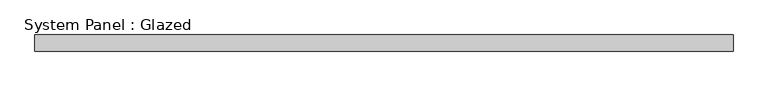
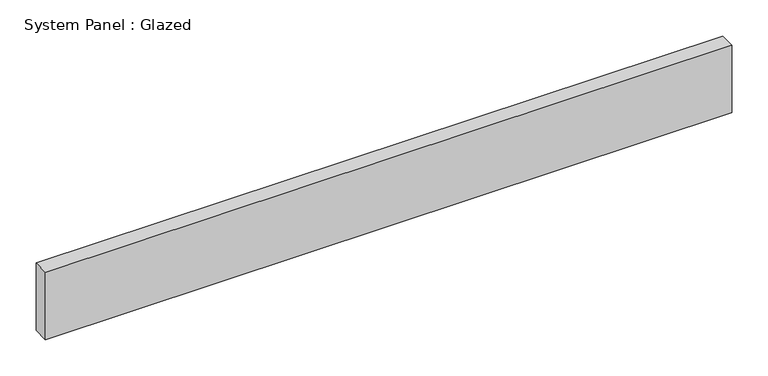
"""IFC4 building model written with IfcOpenShell, lengths in millimetres: plate geometry, System Panel : Glazed."""

from ifc_helpers import new_model, si_unit, origin, origin_with_axes, place, context, project, spatial, polyline, outline, extrude, source, transform, mapped, element, save


def system_panel_glazed_a617cdeb(model_context):
    return source(origin(), model_context, "Body", "SweptSolid", [
        extrude(outline(polyline([(550.303141, 19.05), (-550.303141, 19.05), (-550.303141, 44.45), (550.303141, 44.45), (550.303141, 19.05)])), origin_with_axes(), (0.0, 0.0, 1.0), 114.3),
    ])


if __name__ == "__main__":
    model = new_model("IFC4")
    model_context = context("Model", 3, world=origin())
    ifc_project = project(units=[si_unit("LENGTHUNIT", "METRE", prefix="MILLI")], contexts=[model_context])
    site = spatial("IfcSite", under=ifc_project)
    building = spatial("IfcBuilding", under=site)
    placement = place(None, origin())
    system_panel_glazed_shape = system_panel_glazed_a617cdeb(model_context)
    element("IfcPlate", 1, ObjectType="System Panel : Glazed", at=placement, inside=building, context=model_context, shape_type="MappedRepresentation", body=[
        mapped(system_panel_glazed_shape, transform((0.0, 0.0, 0.0), x_axis=(1.0, 0.0, 0.0), y_axis=(0.0, 1.0, 0.0), z_axis=(0.0, 0.0, 1.0))),
    ])
    save(model, "model.ifc")
